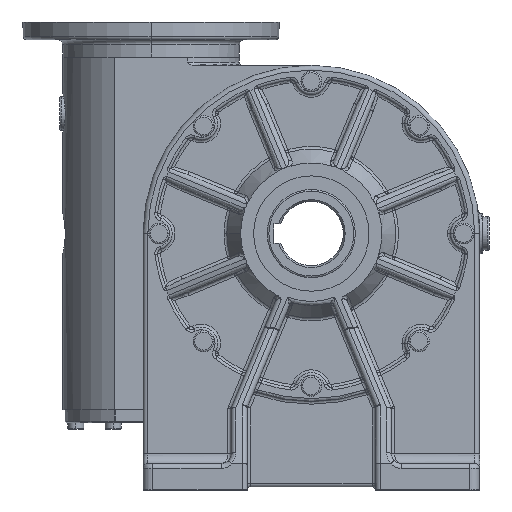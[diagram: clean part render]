
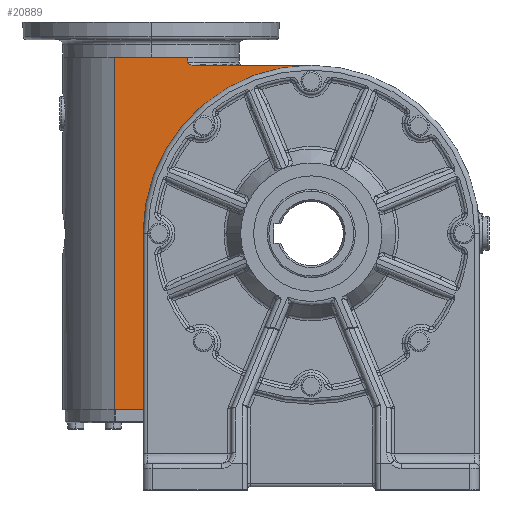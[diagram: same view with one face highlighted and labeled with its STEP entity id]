
A CAD part, left-side view. The second image highlights one B-rep face of the part: STEP entity #20889.
In plain terms, the highlighted planar face has unit normal (-1, 0, 0).
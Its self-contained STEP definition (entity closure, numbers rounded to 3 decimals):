
#20068 = CARTESIAN_POINT ( 'NONE',  ( -50., 0., 36. ) ) ;
#20313 = CARTESIAN_POINT ( 'NONE',  ( -50., 0., -36. ) ) ;
#20346 = DIRECTION ( 'NONE',  ( 0., 0., -1. ) ) ;
#20347 = DIRECTION ( 'NONE',  ( -1., 0., 0. ) ) ;
#20348 = CARTESIAN_POINT ( 'NONE',  ( -50., 0., 0. ) ) ;
#20349 = AXIS2_PLACEMENT_3D ( 'NONE', #20348, #20347, #20346 ) ;
#20350 = CIRCLE ( 'NONE', #20349, 36. ) ;
#20632 = CARTESIAN_POINT ( 'NONE',  ( -50., 77.087, 110. ) ) ;
#20889 = ADVANCED_FACE ( 'NONE', ( #28211, #28210 ), #28209, .F. ) ;
#20897 = EDGE_CURVE ( 'NONE', #20934, #20947, #28256, .T. ) ;
#20898 = ORIENTED_EDGE ( 'NONE', *, *, #20897, .F. ) ;
#20908 = EDGE_CURVE ( 'NONE', #20910, #58966, #28301, .T. ) ;
#20909 = EDGE_LOOP ( 'NONE', ( #20898, #20935, #20938, #20928, #20921, #20912, #20958, #20948, #20949, #20931 ) ) ;
#20910 = VERTEX_POINT ( 'NONE', #28297 ) ;
#20912 = ORIENTED_EDGE ( 'NONE', *, *, #20918, .T. ) ;
#20916 = VERTEX_POINT ( 'NONE', #28338 ) ;
#20918 = EDGE_CURVE ( 'NONE', #20910, #20916, #28331, .T. ) ;
#20921 = ORIENTED_EDGE ( 'NONE', *, *, #20908, .F. ) ;
#20924 = EDGE_CURVE ( 'NONE', #58966, #20944, #28326, .T. ) ;
#20928 = ORIENTED_EDGE ( 'NONE', *, *, #20924, .F. ) ;
#20929 = EDGE_CURVE ( 'NONE', #58806, #55495, #28314, .T. ) ;
#20930 = EDGE_CURVE ( 'NONE', #20940, #20934, #28373, .T. ) ;
#20931 = ORIENTED_EDGE ( 'NONE', *, *, #20932, .F. ) ;
#20932 = EDGE_CURVE ( 'NONE', #20947, #20939, #28369, .T. ) ;
#20933 = ORIENTED_EDGE ( 'NONE', *, *, #20929, .F. ) ;
#20934 = VERTEX_POINT ( 'NONE', #28365 ) ;
#20935 = ORIENTED_EDGE ( 'NONE', *, *, #20930, .F. ) ;
#20936 = EDGE_LOOP ( 'NONE', ( #20933, #20946 ) ) ;
#20937 = EDGE_CURVE ( 'NONE', #20940, #20944, #28362, .T. ) ;
#20938 = ORIENTED_EDGE ( 'NONE', *, *, #20937, .T. ) ;
#20939 = VERTEX_POINT ( 'NONE', #28364 ) ;
#20940 = VERTEX_POINT ( 'NONE', #28363 ) ;
#20944 = VERTEX_POINT ( 'NONE', #28344 ) ;
#20945 = EDGE_CURVE ( 'NONE', #20952, #20939, #28361, .T. ) ;
#20946 = ORIENTED_EDGE ( 'NONE', *, *, #58823, .F. ) ;
#20947 = VERTEX_POINT ( 'NONE', #28409 ) ;
#20948 = ORIENTED_EDGE ( 'NONE', *, *, #20950, .F. ) ;
#20949 = ORIENTED_EDGE ( 'NONE', *, *, #20945, .T. ) ;
#20950 = EDGE_CURVE ( 'NONE', #20952, #20953, #28407, .T. ) ;
#20952 = VERTEX_POINT ( 'NONE', #28408 ) ;
#20953 = VERTEX_POINT ( 'NONE', #28387 ) ;
#20954 = EDGE_CURVE ( 'NONE', #20916, #20953, #28386, .T. ) ;
#20958 = ORIENTED_EDGE ( 'NONE', *, *, #20954, .T. ) ;
#28209 = PLANE ( 'NONE',  #28276 ) ;
#28210 = FACE_BOUND ( 'NONE', #20936, .T. ) ;
#28211 = FACE_OUTER_BOUND ( 'NONE', #20909, .T. ) ;
#28252 = DIRECTION ( 'NONE',  ( 0., 0., -1. ) ) ;
#28253 = DIRECTION ( 'NONE',  ( 1., 0., 0. ) ) ;
#28254 = CARTESIAN_POINT ( 'NONE',  ( -50., 0., 0. ) ) ;
#28255 = AXIS2_PLACEMENT_3D ( 'NONE', #28254, #28253, #28252 ) ;
#28256 = CIRCLE ( 'NONE', #28255, 105. ) ;
#28273 = DIRECTION ( 'NONE',  ( 0., 0., -1. ) ) ;
#28274 = DIRECTION ( 'NONE',  ( 1., 0., 0. ) ) ;
#28275 = CARTESIAN_POINT ( 'NONE',  ( -50., 0., 0. ) ) ;
#28276 = AXIS2_PLACEMENT_3D ( 'NONE', #28275, #28274, #28273 ) ;
#28297 = CARTESIAN_POINT ( 'NONE',  ( -50., 122.913, 110. ) ) ;
#28298 = DIRECTION ( 'NONE',  ( 0., -1., 0. ) ) ;
#28299 = VECTOR ( 'NONE', #28298, 1000. ) ;
#28300 = CARTESIAN_POINT ( 'NONE',  ( -50., 122.913, 110. ) ) ;
#28301 = LINE ( 'NONE', #28300, #28299 ) ;
#28312 = CARTESIAN_POINT ( 'NONE',  ( -50., 0., 0. ) ) ;
#28313 = AXIS2_PLACEMENT_3D ( 'NONE', #28312, #28375, #28374 ) ;
#28314 = CIRCLE ( 'NONE', #28313, 36. ) ;
#28323 = DIRECTION ( 'NONE',  ( 0., 0., -1. ) ) ;
#28324 = VECTOR ( 'NONE', #28323, 1000. ) ;
#28325 = CARTESIAN_POINT ( 'NONE',  ( -50., 77.087, 110. ) ) ;
#28326 = LINE ( 'NONE', #28325, #28324 ) ;
#28328 = DIRECTION ( 'NONE',  ( 0., 0., -1. ) ) ;
#28329 = VECTOR ( 'NONE', #28328, 1000. ) ;
#28330 = CARTESIAN_POINT ( 'NONE',  ( -50., 122.913, 110. ) ) ;
#28331 = LINE ( 'NONE', #28330, #28329 ) ;
#28338 = CARTESIAN_POINT ( 'NONE',  ( -50., 122.913, -110. ) ) ;
#28344 = CARTESIAN_POINT ( 'NONE',  ( -50., 77.087, 107. ) ) ;
#28346 = CARTESIAN_POINT ( 'NONE',  ( -50., 77.087, 107. ) ) ;
#28347 = CARTESIAN_POINT ( 'NONE',  ( -50., 77.087, 106.776 ) ) ;
#28348 = CARTESIAN_POINT ( 'NONE',  ( -50., 76.994, 106.567 ) ) ;
#28349 = CARTESIAN_POINT ( 'NONE',  ( -50., 76.725, 106.214 ) ) ;
#28350 = CARTESIAN_POINT ( 'NONE',  ( -50., 76.558, 106.072 ) ) ;
#28351 = CARTESIAN_POINT ( 'NONE',  ( -50., 76.199, 105.824 ) ) ;
#28353 = CARTESIAN_POINT ( 'NONE',  ( -50., 76.005, 105.718 ) ) ;
#28354 = CARTESIAN_POINT ( 'NONE',  ( -50., 75.606, 105.535 ) ) ;
#28355 = CARTESIAN_POINT ( 'NONE',  ( -50., 75.4, 105.456 ) ) ;
#28356 = CARTESIAN_POINT ( 'NONE',  ( -50., 74.778, 105.253 ) ) ;
#28357 = CARTESIAN_POINT ( 'NONE',  ( -50., 74.356, 105.159 ) ) ;
#28358 = CARTESIAN_POINT ( 'NONE',  ( -50., 73.502, 105.032 ) ) ;
#28359 = CARTESIAN_POINT ( 'NONE',  ( -50., 73.07, 105. ) ) ;
#28360 = CARTESIAN_POINT ( 'NONE',  ( -50., 72.632, 105. ) ) ;
#28361 = B_SPLINE_CURVE_WITH_KNOTS ( 'NONE', 3,
 ( #28403, #28402, #28401, #28400, #28399, #28398, #28397, #28396, #28395, #28394, #28393, #28392, #28391, #28390, #28389, #28388 ),
 .UNSPECIFIED., .F., .F.,
 ( 4, 2, 2, 2, 2, 2, 2, 4 ),
 ( 0., 0., 0.001, 0.001, 0.002, 0.003, 0.004, 0.005 ),
 .UNSPECIFIED. ) ;
#28362 = B_SPLINE_CURVE_WITH_KNOTS ( 'NONE', 3,
 ( #28360, #28359, #28358, #28357, #28356, #28355, #28354, #28353, #28351, #28350, #28349, #28348, #28347, #28346 ),
 .UNSPECIFIED., .F., .F.,
 ( 4, 2, 2, 2, 2, 2, 4 ),
 ( 0., 0.001, 0.003, 0.003, 0.004, 0.005, 0.005 ),
 .UNSPECIFIED. ) ;
#28363 = CARTESIAN_POINT ( 'NONE',  ( -50., 72.632, 105. ) ) ;
#28364 = CARTESIAN_POINT ( 'NONE',  ( -50., 72.632, -105. ) ) ;
#28365 = CARTESIAN_POINT ( 'NONE',  ( -50., 0., 105. ) ) ;
#28366 = DIRECTION ( 'NONE',  ( 0., 1., 0. ) ) ;
#28367 = VECTOR ( 'NONE', #28366, 1000. ) ;
#28368 = CARTESIAN_POINT ( 'NONE',  ( -50., 100., -105. ) ) ;
#28369 = LINE ( 'NONE', #28368, #28367 ) ;
#28370 = DIRECTION ( 'NONE',  ( 0., -1., 0. ) ) ;
#28371 = VECTOR ( 'NONE', #28370, 1000. ) ;
#28372 = CARTESIAN_POINT ( 'NONE',  ( -50., 100., 105. ) ) ;
#28373 = LINE ( 'NONE', #28372, #28371 ) ;
#28374 = DIRECTION ( 'NONE',  ( 0., 0., -1. ) ) ;
#28375 = DIRECTION ( 'NONE',  ( -1., 0., 0. ) ) ;
#28383 = DIRECTION ( 'NONE',  ( 0., -1., 0. ) ) ;
#28384 = VECTOR ( 'NONE', #28383, 1000. ) ;
#28385 = CARTESIAN_POINT ( 'NONE',  ( -50., 122.913, -110. ) ) ;
#28386 = LINE ( 'NONE', #28385, #28384 ) ;
#28387 = CARTESIAN_POINT ( 'NONE',  ( -50., 77.087, -110. ) ) ;
#28388 = CARTESIAN_POINT ( 'NONE',  ( -50., 72.632, -105. ) ) ;
#28389 = CARTESIAN_POINT ( 'NONE',  ( -50., 73.07, -105. ) ) ;
#28390 = CARTESIAN_POINT ( 'NONE',  ( -50., 73.502, -105.032 ) ) ;
#28391 = CARTESIAN_POINT ( 'NONE',  ( -50., 74.358, -105.159 ) ) ;
#28392 = CARTESIAN_POINT ( 'NONE',  ( -50., 74.783, -105.254 ) ) ;
#28393 = CARTESIAN_POINT ( 'NONE',  ( -50., 75.407, -105.459 ) ) ;
#28394 = CARTESIAN_POINT ( 'NONE',  ( -50., 75.611, -105.537 ) ) ;
#28395 = CARTESIAN_POINT ( 'NONE',  ( -50., 76.006, -105.719 ) ) ;
#28396 = CARTESIAN_POINT ( 'NONE',  ( -50., 76.198, -105.823 ) ) ;
#28397 = CARTESIAN_POINT ( 'NONE',  ( -50., 76.56, -106.073 ) ) ;
#28398 = CARTESIAN_POINT ( 'NONE',  ( -50., 76.727, -106.216 ) ) ;
#28399 = CARTESIAN_POINT ( 'NONE',  ( -50., 76.928, -106.48 ) ) ;
#28400 = CARTESIAN_POINT ( 'NONE',  ( -50., 76.984, -106.574 ) ) ;
#28401 = CARTESIAN_POINT ( 'NONE',  ( -50., 77.065, -106.781 ) ) ;
#28402 = CARTESIAN_POINT ( 'NONE',  ( -50., 77.087, -106.889 ) ) ;
#28403 = CARTESIAN_POINT ( 'NONE',  ( -50., 77.087, -107. ) ) ;
#28404 = DIRECTION ( 'NONE',  ( 0., 0., -1. ) ) ;
#28405 = VECTOR ( 'NONE', #28404, 1000. ) ;
#28406 = CARTESIAN_POINT ( 'NONE',  ( -50., 77.087, 110. ) ) ;
#28407 = LINE ( 'NONE', #28406, #28405 ) ;
#28408 = CARTESIAN_POINT ( 'NONE',  ( -50., 77.087, -107. ) ) ;
#28409 = CARTESIAN_POINT ( 'NONE',  ( -50., 0., -105. ) ) ;
#55495 = VERTEX_POINT ( 'NONE', #20068 ) ;
#58806 = VERTEX_POINT ( 'NONE', #20313 ) ;
#58823 = EDGE_CURVE ( 'NONE', #55495, #58806, #20350, .T. ) ;
#58966 = VERTEX_POINT ( 'NONE', #20632 ) ;
